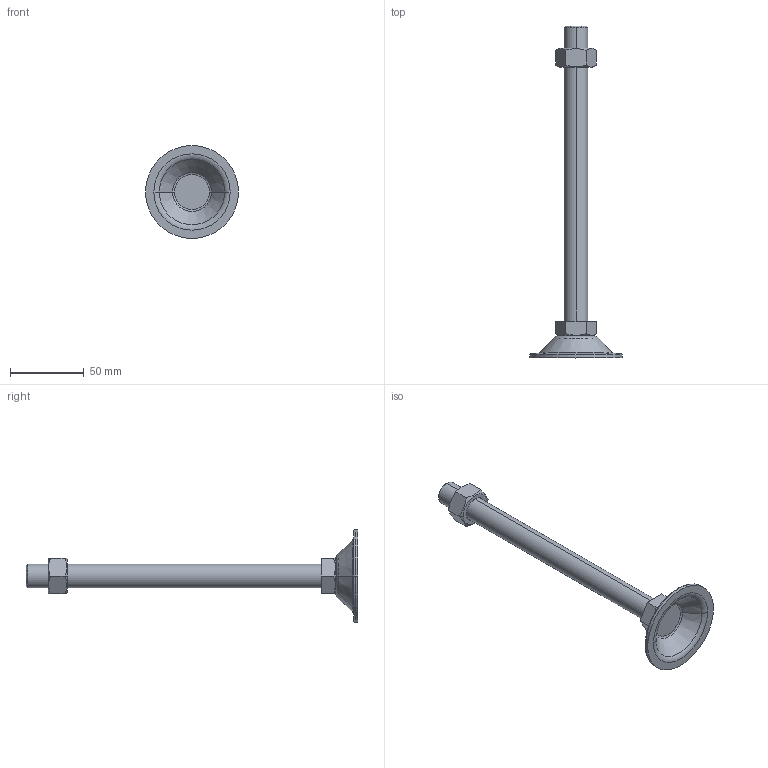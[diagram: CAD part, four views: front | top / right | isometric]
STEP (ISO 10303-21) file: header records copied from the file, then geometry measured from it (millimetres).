
FILE_DESCRIPTION (( 'STEP AP214' ), '1' );
FILE_NAME ('BL63-M16-200.step', '2021-01-06T05:39:07', ( '' ), ( '' ), 'SwSTEP 2.0', 'SolidWorks 2019', '' );
FILE_SCHEMA (( 'AUTOMOTIVE_DESIGN' ));
Length unit declared in the file: millimetre
Products named in the file (1): BL63-M16-200
Bounding box: 63 x 225 x 63 mm (x, y, z)
Volume: 59969 mm3; surface area: 21919.7 mm2
Topology: 3 solids, 3 shells, 53 faces, 110 edges, 66 vertices
Faces by surface type: plane 21, cone 16, torus 10, cylinder 6
Entity records: 1618 total; most frequent: CARTESIAN_POINT 428, DIRECTION 252, ORIENTED_EDGE 220, EDGE_CURVE 110, AXIS2_PLACEMENT_3D 106, VERTEX_POINT 66, EDGE_LOOP 58, ADVANCED_FACE 53
